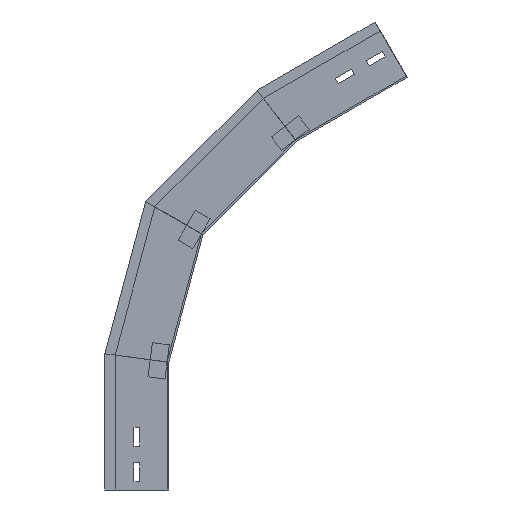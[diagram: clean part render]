
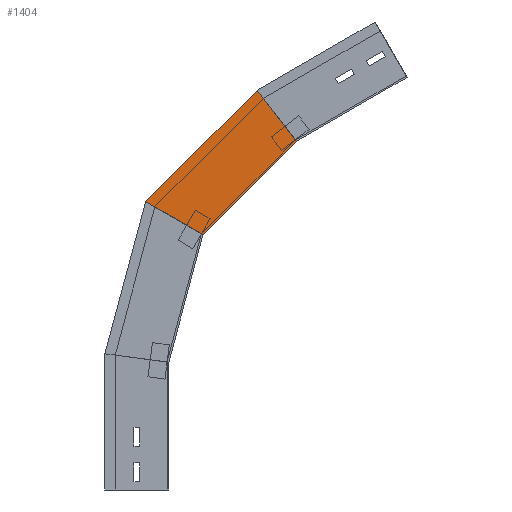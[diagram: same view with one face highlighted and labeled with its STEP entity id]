
A CAD part, left-side view. The second image highlights one B-rep face of the part: STEP entity #1404.
In plain terms, the highlighted planar face has unit normal (-1, 0, 0) as drawn and (1, 0, 0) by its records, which use the part's own axes.
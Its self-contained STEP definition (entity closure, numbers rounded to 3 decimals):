
#63 = PLANE ( 'NONE',  #1309 ) ;
#88 = ORIENTED_EDGE ( 'NONE', *, *, #1346, .F. ) ;
#111 = ORIENTED_EDGE ( 'NONE', *, *, #624, .T. ) ;
#172 = CARTESIAN_POINT ( 'NONE',  ( 0., 75., 159.874 ) ) ;
#196 = CARTESIAN_POINT ( 'NONE',  ( 0., 2.837, 139.412 ) ) ;
#211 = VERTEX_POINT ( 'NONE', #954 ) ;
#266 = VERTEX_POINT ( 'NONE', #353 ) ;
#296 = DIRECTION ( 'NONE',  ( 0., -0.259, 0.966 ) ) ;
#337 = EDGE_LOOP ( 'NONE', ( #111, #414, #88, #870 ) ) ;
#340 = DIRECTION ( 'NONE',  ( 0., -0.866, -0.5 ) ) ;
#353 = CARTESIAN_POINT ( 'NONE',  ( 0., -40.117, 299.719 ) ) ;
#357 = DIRECTION ( 'NONE',  ( 1., 0., 0. ) ) ;
#414 = ORIENTED_EDGE ( 'NONE', *, *, #1055, .T. ) ;
#486 = FACE_OUTER_BOUND ( 'NONE', #337, .T. ) ;
#500 = VERTEX_POINT ( 'NONE', #818 ) ;
#579 = LINE ( 'NONE', #196, #1040 ) ;
#624 = EDGE_CURVE ( 'NONE', #631, #500, #1449, .T. ) ;
#631 = VERTEX_POINT ( 'NONE', #172 ) ;
#666 = VECTOR ( 'NONE', #340, 1000. ) ;
#689 = DIRECTION ( 'NONE',  ( 0., -0.991, -0.131 ) ) ;
#745 = VECTOR ( 'NONE', #296, 1000. ) ;
#818 = CARTESIAN_POINT ( 'NONE',  ( 0., 27.126, 338.541 ) ) ;
#870 = ORIENTED_EDGE ( 'NONE', *, *, #1260, .F. ) ;
#954 = CARTESIAN_POINT ( 'NONE',  ( 0., 0., 150. ) ) ;
#1040 = VECTOR ( 'NONE', #1078, 1000. ) ;
#1055 = EDGE_CURVE ( 'NONE', #500, #266, #1608, .T. ) ;
#1078 = DIRECTION ( 'NONE',  ( 0., -0.259, 0.966 ) ) ;
#1210 = CARTESIAN_POINT ( 'NONE',  ( 0., -19.411, 147.444 ) ) ;
#1255 = CARTESIAN_POINT ( 'NONE',  ( 0., 2.837, 139.412 ) ) ;
#1260 = EDGE_CURVE ( 'NONE', #631, #211, #1326, .T. ) ;
#1309 = AXIS2_PLACEMENT_3D ( 'NONE', #1255, #357, #1356 ) ;
#1320 = CARTESIAN_POINT ( 'NONE',  ( 0., 75.281, 158.824 ) ) ;
#1326 = LINE ( 'NONE', #1210, #1689 ) ;
#1346 = EDGE_CURVE ( 'NONE', #211, #266, #579, .T. ) ;
#1356 = DIRECTION ( 'NONE',  ( 0., 0., -1. ) ) ;
#1368 = CARTESIAN_POINT ( 'NONE',  ( 0., -77.316, 278.242 ) ) ;
#1404 = ADVANCED_FACE ( 'NONE', ( #486 ), #63, .T. ) ;
#1449 = LINE ( 'NONE', #1320, #745 ) ;
#1608 = LINE ( 'NONE', #1368, #666 ) ;
#1689 = VECTOR ( 'NONE', #689, 1000. ) ;
